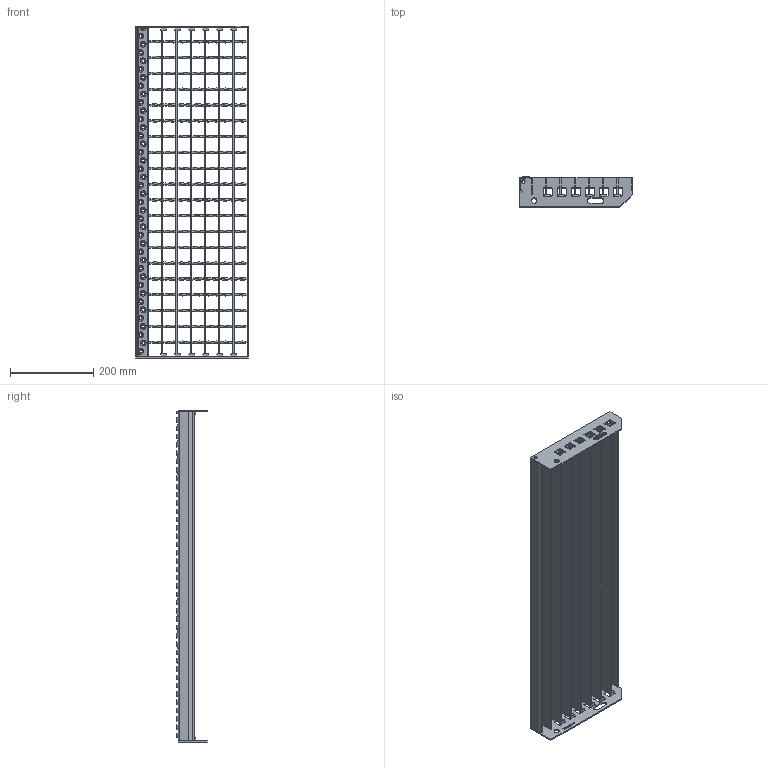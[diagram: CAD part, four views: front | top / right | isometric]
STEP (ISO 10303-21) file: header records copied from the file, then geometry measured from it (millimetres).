
FILE_DESCRIPTION(/* description */ ('','CAx-IF Rec.Pracs.---Representation and Presentation of Product Manufacturing Information (PMI)---3.8---2014-02-18'),/* implementation_level */ '2;1');
FILE_NAME(/* name */ 'C:\Users\phaverkotte\Desktop\Lager STEP\SP-Stufen\SP 340-34 38-3\SP 340-34 38-3 800mm x270mm.stp',/* time_stamp */ '2018-03-24T11:56:29+01:00',/* author */ ('phaverkotte'),/* organization */ (''),/* preprocessor_version */ 'ST-DEVELOPER v16.13',/* originating_system */ 'Autodesk Inventor 2018',/* authorisation */ '');
FILE_SCHEMA (('AP242_MANAGED_MODEL_BASED_3D_ENGINEERING_MIM_LF { 1 0 10303 442 1 1 4 }'));
Length unit declared in the file: millimetre
Products named in the file (8): Stufe SP; Seitenplatte ausgeklinkt links; Seitenplatte 240 ausgeklinkt extern rechts; Schod nášlap; SP Rošt schodu; Nosny pas; Krouceny drat; Hinteres Flach
Assembly tree (32 placements, depth 3):
  Stufe SP
    Seitenplatte ausgeklinkt links
    Seitenplatte 240 ausgeklinkt extern rechts
    Schod nášlap
    SP Rošt schodu
      Nosny pas  x7
      Krouceny drat  x20
      Hinteres Flach
Bounding box: 271.31 x 72.75 x 800 mm (x, y, z)
Volume: 1020879.3 mm3; surface area: 787475 mm2
Topology: 31 solids, 31 shells, 1074 faces, 2874 edges, 1879 vertices
Faces by surface type: plane 538, cylinder 272, cone 120, bspline 104, torus 40
Full cylindrical faces by diameter (mm): 8 x2, 13 x2
Entity records: 25578 total; most frequent: CARTESIAN_POINT 8448, DIRECTION 3454, ORIENTED_EDGE 3232, EDGE_CURVE 1616, AXIS2_PLACEMENT_3D 1201, VERTEX_POINT 1121, LINE 1052, VECTOR 1052
